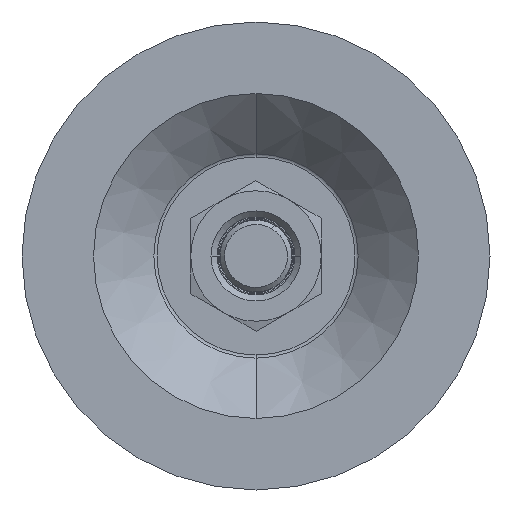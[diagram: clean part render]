
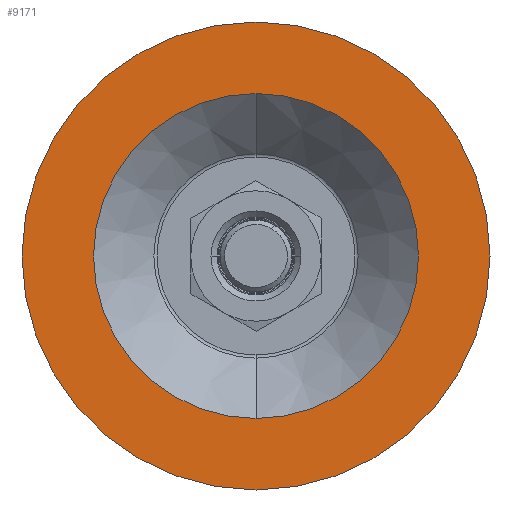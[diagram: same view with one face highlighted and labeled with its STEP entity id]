
A CAD part, front view. The second image highlights one B-rep face of the part: STEP entity #9171.
In plain terms, the highlighted planar face has unit normal (0, -1, 0).
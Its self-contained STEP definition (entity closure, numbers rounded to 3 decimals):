
#715 = DIRECTION ( 'NONE',  ( 0., 0., -1. ) ) ;
#775 = VERTEX_POINT ( 'NONE', #7665 ) ;
#791 = ORIENTED_EDGE ( 'NONE', *, *, #5402, .T. ) ;
#1067 = AXIS2_PLACEMENT_3D ( 'NONE', #4027, #8432, #8411 ) ;
#1198 = VERTEX_POINT ( 'NONE', #7078 ) ;
#1826 = VERTEX_POINT ( 'NONE', #2171 ) ;
#2077 = EDGE_CURVE ( 'NONE', #775, #1826, #5861, .T. ) ;
#2146 = VERTEX_POINT ( 'NONE', #8588 ) ;
#2171 = CARTESIAN_POINT ( 'NONE',  ( 0., -2.6, 52. ) ) ;
#2395 = AXIS2_PLACEMENT_3D ( 'NONE', #3482, #4218, #5164 ) ;
#2812 = ORIENTED_EDGE ( 'NONE', *, *, #2077, .T. ) ;
#3026 = AXIS2_PLACEMENT_3D ( 'NONE', #7927, #3592, #715 ) ;
#3482 = CARTESIAN_POINT ( 'NONE',  ( 0., -2.6, 0. ) ) ;
#3592 = DIRECTION ( 'NONE',  ( 0., -1., 0. ) ) ;
#3810 = ORIENTED_EDGE ( 'NONE', *, *, #7925, .F. ) ;
#4027 = CARTESIAN_POINT ( 'NONE',  ( 0., -2.6, 0. ) ) ;
#4062 = DIRECTION ( 'NONE',  ( 0., 0., -1. ) ) ;
#4089 = ORIENTED_EDGE ( 'NONE', *, *, #5392, .F. ) ;
#4218 = DIRECTION ( 'NONE',  ( 0., -1., 0. ) ) ;
#4845 = DIRECTION ( 'NONE',  ( 0., -1., 0. ) ) ;
#5151 = CIRCLE ( 'NONE', #1067, 36.1 ) ;
#5164 = DIRECTION ( 'NONE',  ( 0., 0., -1. ) ) ;
#5392 = EDGE_CURVE ( 'NONE', #1198, #2146, #7871, .T. ) ;
#5402 = EDGE_CURVE ( 'NONE', #1826, #775, #7657, .T. ) ;
#5521 = CARTESIAN_POINT ( 'NONE',  ( 0., -2.6, -52. ) ) ;
#5579 = FACE_OUTER_BOUND ( 'NONE', #7183, .T. ) ;
#5778 = EDGE_LOOP ( 'NONE', ( #3810, #4089 ) ) ;
#5861 = CIRCLE ( 'NONE', #3026, 52. ) ;
#5938 = FACE_BOUND ( 'NONE', #5778, .T. ) ;
#7078 = CARTESIAN_POINT ( 'NONE',  ( 0., -2.6, 36.1 ) ) ;
#7183 = EDGE_LOOP ( 'NONE', ( #2812, #791 ) ) ;
#7226 = AXIS2_PLACEMENT_3D ( 'NONE', #8537, #7837, #7303 ) ;
#7303 = DIRECTION ( 'NONE',  ( 0., 0., -1. ) ) ;
#7650 = PLANE ( 'NONE',  #9217 ) ;
#7657 = CIRCLE ( 'NONE', #2395, 52. ) ;
#7665 = CARTESIAN_POINT ( 'NONE',  ( 0., -2.6, -52. ) ) ;
#7837 = DIRECTION ( 'NONE',  ( 0., -1., 0. ) ) ;
#7871 = CIRCLE ( 'NONE', #7226, 36.1 ) ;
#7925 = EDGE_CURVE ( 'NONE', #2146, #1198, #5151, .T. ) ;
#7927 = CARTESIAN_POINT ( 'NONE',  ( 0., -2.6, 0. ) ) ;
#8411 = DIRECTION ( 'NONE',  ( 0., 0., -1. ) ) ;
#8432 = DIRECTION ( 'NONE',  ( 0., -1., 0. ) ) ;
#8537 = CARTESIAN_POINT ( 'NONE',  ( 0., -2.6, 0. ) ) ;
#8588 = CARTESIAN_POINT ( 'NONE',  ( 0., -2.6, -36.1 ) ) ;
#9171 = ADVANCED_FACE ( 'NONE', ( #5579, #5938 ), #7650, .T. ) ;
#9217 = AXIS2_PLACEMENT_3D ( 'NONE', #5521, #4845, #4062 ) ;
